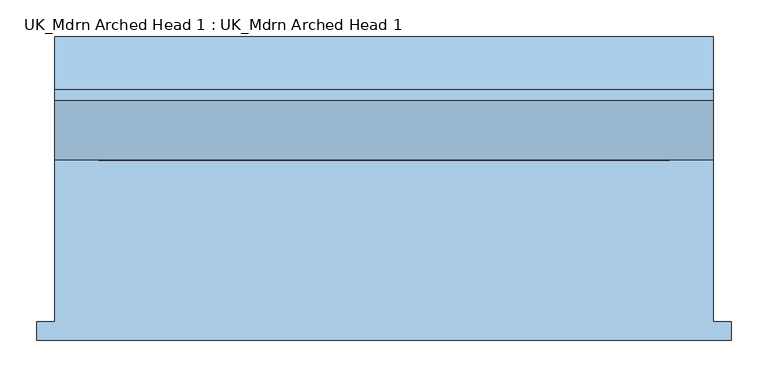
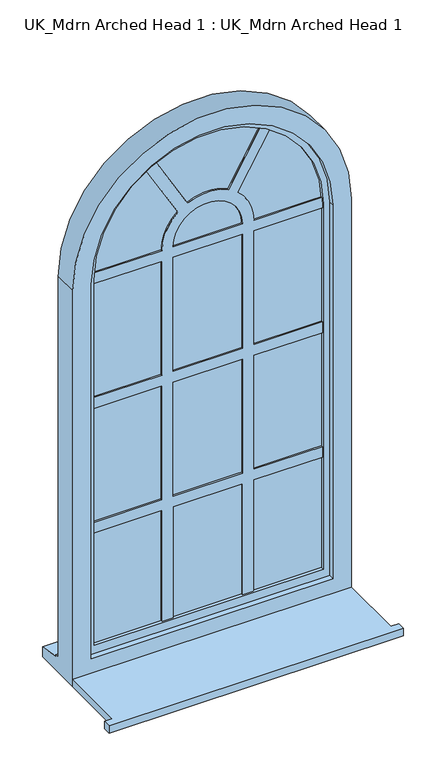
"""IFC4 building model written with IfcOpenShell, lengths in millimetres: window geometry, UK_Mdrn Arched Head 1 : UK_Mdrn Arched Head 1."""

from ifc_helpers import new_model, si_unit, point, frame, frame_2d, origin, place, context, project, spatial, polyline, circle_curve, trimmed, segment, composite_curve, outline, extrude, source, transform, mapped, element, save
from ifc_brep_helpers import plane_surface, cylinder_surface, revolved_surface, advanced_brep


def uk_mdrn_arched_head_1_uk_mdrn_arched_head_1_e3e941a3(model_context):
    return source(origin(), model_context, "Body", "SolidModel", [
        extrude(outline(polyline([(-760.0, -192.7559322), (-760.0, -167.7559322), (-735.0, -167.7559322), (-735.0, 53.6690678), (165.0, 53.6690678), (165.0, -167.7559322), (190.0, -167.7559322), (190.0, -192.7559322), (-760.0, -192.7559322)])), frame((0.0, 0.0, 760.0), z_axis=(0.0, 0.0, 1.0), x_axis=(1.0, 0.0, 0.0)), (0.0, 0.0, 1.0), 25.0),
        extrude(outline(composite_curve([segment(trimmed(circle_curve(frame_2d((2110.0, -285.0)), 380.0), [point((2429.7202458, -490.3751797))], [point((2128.0, -664.5734448))], False, "CARTESIAN"), True, "CONTINUOUS"), segment(polyline([(2128.0, -664.5734448), (2128.0, -433.3041784)]), True, "CONTINUOUS"), segment(trimmed(circle_curve(frame_2d((2128.0, -285.0)), 148.3041784), [point((2128.0, -433.3041784))], [point((2240.7887445, -381.2955266))], True, "CARTESIAN"), True, "CONTINUOUS"), segment(polyline([(2240.7887445, -381.2955266), (2429.7202458, -490.3751797)]), True, "CONTINUOUS")], self_intersect=False)), frame((0.0, 82.1690678, 0.0), z_axis=(0.0, 1.0, 0.0), x_axis=(0.0, 0.0, 1.0)), (0.0, 0.0, 1.0), 24.0),
        extrude(outline(composite_curve([segment(trimmed(circle_curve(frame_2d((2128.0, -285.0)), 148.3041784), [point((2240.7887445, -188.7044734))], [point((2128.0, -136.6958216))], True, "CARTESIAN"), True, "CONTINUOUS"), segment(polyline([(2128.0, -136.6958216), (2128.0, 94.5734448)]), True, "CONTINUOUS"), segment(trimmed(circle_curve(frame_2d((2110.0, -285.0)), 380.0), [point((2128.0, 94.5734448))], [point((2429.7202458, -79.6248203))], False, "CARTESIAN"), True, "CONTINUOUS"), segment(polyline([(2429.7202458, -79.6248203), (2240.7887445, -188.7044734)]), True, "CONTINUOUS")], self_intersect=False)), frame((0.0, 82.1690678, 0.0), z_axis=(0.0, 1.0, 0.0), x_axis=(0.0, 0.0, 1.0)), (0.0, 0.0, 1.0), 24.0),
        extrude(outline(composite_curve([segment(polyline([(2260.6984672, -218.7788091), (2447.7202458, -110.8017349)]), True, "CONTINUOUS"), segment(trimmed(circle_curve(frame_2d((2110.0, -285.0)), 380.0), [point((2447.7202458, -110.8017349))], [point((2447.7202458, -459.1982651))], False, "CARTESIAN"), True, "CONTINUOUS"), segment(polyline([(2447.7202458, -459.1982651), (2260.6984672, -351.2211909)]), True, "CONTINUOUS"), segment(trimmed(circle_curve(frame_2d((2128.0, -285.0)), 148.3041784), [point((2260.6984672, -351.2211909))], [point((2260.6984672, -218.7788091))], True, "CARTESIAN"), True, "CONTINUOUS")], self_intersect=False)), frame((0.0, 82.1690678, 0.0), z_axis=(0.0, 1.0, 0.0), x_axis=(0.0, 0.0, 1.0)), (0.0, 0.0, 1.0), 24.0),
        extrude(outline(composite_curve([segment(trimmed(circle_curve(frame_2d((2110.0, -285.0)), 380.0), [point((2429.7202458, -79.6248203))], [point((2447.7202458, -110.8017349))], False, "CARTESIAN"), True, "CONTINUOUS"), segment(polyline([(2447.7202458, -110.8017349), (2260.6984672, -218.7788091)]), True, "CONTINUOUS"), segment(trimmed(circle_curve(frame_2d((2128.0, -285.0)), 148.3041784), [point((2260.6984672, -218.7788091))], [point((2260.6984672, -351.2211909))], False, "CARTESIAN"), True, "CONTINUOUS"), segment(polyline([(2260.6984672, -351.2211909), (2447.7202458, -459.1982651)]), True, "CONTINUOUS"), segment(trimmed(circle_curve(frame_2d((2110.0, -285.0)), 380.0), [point((2447.7202458, -459.1982651))], [point((2429.7202458, -490.3751797))], False, "CARTESIAN"), True, "CONTINUOUS"), segment(polyline([(2429.7202458, -490.3751797), (2240.7887445, -381.2955266)]), True, "CONTINUOUS"), segment(trimmed(circle_curve(frame_2d((2128.0, -285.0)), 148.3041784), [point((2240.7887445, -381.2955266))], [point((2128.0, -433.3041784))], False, "CARTESIAN"), True, "CONTINUOUS"), segment(polyline([(2128.0, -433.3041784), (2128.0, -664.5734448)]), True, "CONTINUOUS"), segment(trimmed(circle_curve(frame_2d((2110.0, -285.0)), 380.0), [point((2128.0, -664.5734448))], [point((2110.0, -665.0))], False, "CARTESIAN"), True, "CONTINUOUS"), segment(polyline([(2110.0, -665.0), (2092.0, -665.0), (2092.0, -433.0), (1703.0, -433.0), (1703.0, -665.0), (1667.0, -665.0), (1667.0, -433.0), (1278.0, -433.0), (1278.0, -665.0), (1242.0, -665.0), (1242.0, -433.0), (853.0, -433.0), (853.0, -397.0), (1242.0, -397.0), (1242.0, -173.0), (853.0, -173.0), (853.0, -137.0), (1242.0, -137.0), (1242.0, 95.0), (1278.0, 95.0), (1278.0, -137.0), (1667.0, -137.0), (1667.0, 95.0), (1703.0, 95.0), (1703.0, -137.0), (2092.0, -137.0), (2092.0, 94.9854695), (2110.0, 94.9854695)]), True, "CONTINUOUS"), segment(trimmed(circle_curve(frame_2d((2110.0, -285.0)), 379.9854695), [point((2110.0, 94.9854695))], [point((2128.0, 94.558898))], False, "CARTESIAN"), True, "CONTINUOUS"), segment(polyline([(2128.0, 94.558898), (2128.0, -136.6958216)]), True, "CONTINUOUS"), segment(trimmed(circle_curve(frame_2d((2128.0, -285.0)), 148.3041784), [point((2128.0, -136.6958216))], [point((2240.7887445, -188.7044734))], False, "CARTESIAN"), True, "CONTINUOUS"), segment(polyline([(2240.7887445, -188.7044734), (2429.7202458, -79.6248203)]), True, "CONTINUOUS")], self_intersect=False), holes=[composite_curve([segment(polyline([(2128.0, -173.3041784), (2128.0, -396.6958216)]), True, "CONTINUOUS"), segment(trimmed(circle_curve(frame_2d((2128.0, -285.0)), 111.6958216), [point((2128.0, -396.6958216))], [point((2128.0, -173.3041784))], True, "CARTESIAN"), True, "CONTINUOUS")], self_intersect=False), polyline([(1278.0, -397.0), (1667.0, -397.0), (1667.0, -173.0), (1278.0, -173.0), (1278.0, -397.0)]), polyline([(1703.0, -397.0), (2092.0, -397.0), (2092.0, -173.0), (1703.0, -173.0), (1703.0, -397.0)])]), frame((0.0, 76.9190678, 0.0), z_axis=(0.0, 1.0, 0.0), x_axis=(0.0, 0.0, 1.0)), (0.0, 0.0, 1.0), 34.5),
        extrude(outline(polyline([(95.0, 82.1690678), (-137.0, 82.1690678), (-137.0, 106.1690678), (95.0, 106.1690678), (95.0, 82.1690678)])), frame((0.0, 0.0, 853.0), z_axis=(0.0, 0.0, 1.0), x_axis=(1.0, 0.0, 0.0)), (0.0, 0.0, 1.0), 389.0),
        extrude(outline(polyline([(-173.0, 82.1690678), (-397.0, 82.1690678), (-397.0, 106.1690678), (-173.0, 106.1690678), (-173.0, 82.1690678)])), frame((0.0, 0.0, 853.0), z_axis=(0.0, 0.0, 1.0), x_axis=(1.0, 0.0, 0.0)), (0.0, 0.0, 1.0), 389.0),
        extrude(outline(polyline([(-433.0, 82.1690678), (-665.0, 82.1690678), (-665.0, 106.1690678), (-433.0, 106.1690678), (-433.0, 82.1690678)])), frame((0.0, 0.0, 853.0), z_axis=(0.0, 0.0, 1.0), x_axis=(1.0, 0.0, 0.0)), (0.0, 0.0, 1.0), 389.0),
        extrude(outline(polyline([(95.0, 82.1690678), (-137.0, 82.1690678), (-137.0, 106.1690678), (95.0, 106.1690678), (95.0, 82.1690678)])), frame((0.0, 0.0, 1278.0), z_axis=(0.0, 0.0, 1.0), x_axis=(1.0, 0.0, 0.0)), (0.0, 0.0, 1.0), 389.0),
        extrude(outline(polyline([(-173.0, 82.1690678), (-397.0, 82.1690678), (-397.0, 106.1690678), (-173.0, 106.1690678), (-173.0, 82.1690678)])), frame((0.0, 0.0, 1278.0), z_axis=(0.0, 0.0, 1.0), x_axis=(1.0, 0.0, 0.0)), (0.0, 0.0, 1.0), 389.0),
        extrude(outline(polyline([(-433.0, 82.1690678), (-665.0, 82.1690678), (-665.0, 106.1690678), (-433.0, 106.1690678), (-433.0, 82.1690678)])), frame((0.0, 0.0, 1278.0), z_axis=(0.0, 0.0, 1.0), x_axis=(1.0, 0.0, 0.0)), (0.0, 0.0, 1.0), 389.0),
        extrude(outline(polyline([(95.0, 82.1690678), (-137.0, 82.1690678), (-137.0, 106.1690678), (95.0, 106.1690678), (95.0, 82.1690678)])), frame((0.0, 0.0, 1703.0), z_axis=(0.0, 0.0, 1.0), x_axis=(1.0, 0.0, 0.0)), (0.0, 0.0, 1.0), 389.0),
        extrude(outline(polyline([(-173.0, 82.1690678), (-397.0, 82.1690678), (-397.0, 106.1690678), (-173.0, 106.1690678), (-173.0, 82.1690678)])), frame((0.0, 0.0, 1703.0), z_axis=(0.0, 0.0, 1.0), x_axis=(1.0, 0.0, 0.0)), (0.0, 0.0, 1.0), 389.0),
        extrude(outline(polyline([(-433.0, 82.1690678), (-665.0, 82.1690678), (-665.0, 106.1690678), (-433.0, 106.1690678), (-433.0, 82.1690678)])), frame((0.0, 0.0, 1703.0), z_axis=(0.0, 0.0, 1.0), x_axis=(1.0, 0.0, 0.0)), (0.0, 0.0, 1.0), 389.0),
        extrude(outline(composite_curve([segment(trimmed(circle_curve(frame_2d((2128.0, -285.0)), 111.6958216), [point((2128.0, -173.3041784))], [point((2128.0, -396.6958216))], False, "CARTESIAN"), True, "CONTINUOUS"), segment(polyline([(2128.0, -396.6958216), (2128.0, -173.3041784)]), True, "CONTINUOUS")], self_intersect=False)), frame((0.0, 82.1690678, 0.0), z_axis=(0.0, 1.0, 0.0), x_axis=(0.0, 0.0, 1.0)), (0.0, 0.0, 1.0), 24.0),
        advanced_brep(
        [(125.0, 116.6690678, 2110.0), (125.0, 71.6690678, 2110.0), (125.0, 71.6690678, 823.0), (125.0, 116.6690678, 823.0), (85.0, 106.1690678, 2110.0), (85.0, 116.6690678, 2110.0), (85.0, 116.6690678, 863.0), (85.0, 106.1690678, 863.0), (95.0, 82.1690678, 2110.0), (95.0, 106.1690678, 2110.0), (95.0, 106.1690678, 853.0), (95.0, 82.1690678, 853.0), (85.0, 71.6690678, 2110.0), (85.0, 82.1690678, 2110.0), (85.0, 82.1690678, 863.0), (85.0, 71.6690678, 863.0), (-695.0, 71.6690678, 823.0), (-695.0, 116.6690678, 823.0), (-655.0, 116.6690678, 863.0), (-655.0, 106.1690678, 863.0), (-665.0, 106.1690678, 853.0), (-665.0, 82.1690678, 853.0), (-655.0, 82.1690678, 863.0), (-655.0, 71.6690678, 863.0), (-695.0, 71.6690678, 2110.0), (-695.0, 116.6690678, 2110.0), (-655.0, 116.6690678, 2110.0), (-655.0, 106.1690678, 2110.0), (-665.0, 106.1690678, 2110.0), (-665.0, 82.1690678, 2110.0), (-655.0, 82.1690678, 2110.0), (-655.0, 71.6690678, 2110.0)],
        [
            (0, 1),
            (1, 2),
            (2, 3),
            (3, 0),
            (4, 5),
            (5, 6),
            (6, 7),
            (7, 4),
            (8, 9),
            (9, 10),
            (10, 11),
            (11, 8),
            (12, 13),
            (13, 14),
            (14, 15),
            (15, 12),
            (2, 16),
            (16, 17),
            (17, 3),
            (6, 18),
            (18, 19),
            (19, 7),
            (10, 20),
            (20, 21),
            (21, 11),
            (14, 22),
            (22, 23),
            (23, 15),
            (16, 24),
            (24, 25),
            (25, 17),
            (18, 26),
            (26, 27),
            (27, 19),
            (20, 28),
            (28, 29),
            (29, 21),
            (22, 30),
            (30, 31),
            (31, 23),
            (0, 25, circle_curve(frame((-285.0, 116.6690678, 2110.0), z_axis=(0.0, -1.0, 0.0), x_axis=(-1.0, 0.0, 0.0)), 410.0)),
            (24, 1, circle_curve(frame((-285.0, 71.6690678, 2110.0), z_axis=(0.0, 1.0, 0.0), x_axis=(-1.0, 0.0, 0.0)), 410.0)),
            (5, 26, circle_curve(frame((-285.0, 116.6690678, 2110.0), z_axis=(0.0, -1.0, 0.0), x_axis=(-1.0, 0.0, 0.0)), 370.0)),
            (4, 27, circle_curve(frame((-285.0, 106.1690678, 2110.0), z_axis=(0.0, -1.0, 0.0), x_axis=(-1.0, 0.0, 0.0)), 370.0)),
            (9, 28, circle_curve(frame((-285.0, 106.1690678, 2110.0), z_axis=(0.0, -1.0, 0.0), x_axis=(-1.0, 0.0, 0.0)), 380.0)),
            (8, 29, circle_curve(frame((-285.0, 82.1690678, 2110.0), z_axis=(0.0, -1.0, 0.0), x_axis=(-1.0, 0.0, 0.0)), 380.0)),
            (13, 30, circle_curve(frame((-285.0, 82.1690678, 2110.0), z_axis=(0.0, -1.0, 0.0), x_axis=(-1.0, 0.0, 0.0)), 370.0)),
            (12, 31, circle_curve(frame((-285.0, 71.6690678, 2110.0), z_axis=(0.0, -1.0, 0.0), x_axis=(-1.0, 0.0, 0.0)), 370.0)),
        ],
        [
            plane_surface(frame((125.0, 71.6690678, 2110.0), z_axis=(1.0, 0.0, 0.0), x_axis=(0.0, 0.0, -1.0))),
            plane_surface(frame((85.0, 116.6690678, 2110.0), z_axis=(-1.0, 0.0, 0.0), x_axis=(0.0, 0.0, -1.0))),
            plane_surface(frame((95.0, 106.1690678, 2110.0), z_axis=(-1.0, 0.0, 0.0), x_axis=(0.0, 0.0, -1.0))),
            plane_surface(frame((85.0, 82.1690678, 2110.0), z_axis=(-1.0, 0.0, 0.0), x_axis=(0.0, 0.0, -1.0))),
            plane_surface(frame((125.0, 71.6690678, 823.0), z_axis=(0.0, 0.0, -1.0), x_axis=(-1.0, 0.0, 0.0))),
            plane_surface(frame((85.0, 116.6690678, 863.0), z_axis=(0.0, 0.0, 1.0), x_axis=(-1.0, 0.0, 0.0))),
            plane_surface(frame((95.0, 106.1690678, 853.0), z_axis=(0.0, 0.0, 1.0), x_axis=(-1.0, 0.0, 0.0))),
            plane_surface(frame((85.0, 82.1690678, 863.0), z_axis=(0.0, 0.0, 1.0), x_axis=(-1.0, 0.0, 0.0))),
            plane_surface(frame((-695.0, 71.6690678, 823.0), z_axis=(-1.0, 0.0, 0.0), x_axis=(0.0, 0.0, 1.0))),
            plane_surface(frame((-655.0, 116.6690678, 863.0), z_axis=(1.0, 0.0, 0.0), x_axis=(0.0, 0.0, 1.0))),
            plane_surface(frame((-665.0, 106.1690678, 853.0), z_axis=(1.0, 0.0, 0.0), x_axis=(0.0, 0.0, 1.0))),
            plane_surface(frame((-655.0, 82.1690678, 863.0), z_axis=(1.0, 0.0, 0.0), x_axis=(0.0, 0.0, 1.0))),
            cylinder_surface(frame((-285.0, 116.6690678, 2110.0), z_axis=(0.0, 1.0, 0.0), x_axis=(-1.0, 0.0, 0.0)), 410.0),
            plane_surface(frame((-285.0, 116.6690678, 2110.0), z_axis=(0.0, 1.0, 0.0), x_axis=(-1.0, 0.0, 0.0))),
            revolved_surface(polyline([(-655.0, 116.6690678, 2110.0), (-655.0, 106.1690678, 2110.0)]), (-285.0, 116.6690678, 2110.0), (0.0, 1.0, 0.0)),
            plane_surface(frame((-285.0, 106.1690678, 2110.0), z_axis=(0.0, -1.0, 0.0), x_axis=(-1.0, 0.0, 0.0))),
            revolved_surface(polyline([(-665.0, 106.1690678, 2110.0), (-665.0, 82.1690678, 2110.0)]), (-285.0, 116.6690678, 2110.0), (0.0, 1.0, 0.0)),
            plane_surface(frame((-285.0, 82.1690678, 2110.0), z_axis=(0.0, 1.0, 0.0), x_axis=(-1.0, 0.0, 0.0))),
            revolved_surface(polyline([(-655.0, 82.1690678, 2110.0), (-655.0, 71.6690678, 2110.0)]), (-285.0, 116.6690678, 2110.0), (0.0, 1.0, 0.0)),
            plane_surface(frame((-285.0, 71.6690678, 2110.0), z_axis=(0.0, -1.0, 0.0), x_axis=(-1.0, 0.0, 0.0))),
        ],
        [
            (0, [[1, 2, 3, 4]]),
            (1, [[5, 6, 7, 8]]),
            (2, [[9, 10, 11, 12]]),
            (3, [[13, 14, 15, 16]]),
            (4, [[-3, 17, 18, 19]]),
            (5, [[-7, 20, 21, 22]]),
            (6, [[-11, 23, 24, 25]]),
            (7, [[-15, 26, 27, 28]]),
            (8, [[-18, 29, 30, 31]]),
            (9, [[-21, 32, 33, 34]]),
            (10, [[-24, 35, 36, 37]]),
            (11, [[-27, 38, 39, 40]]),
            (12, [[41, -30, 42, -1]]),
            (13, [[-19, -31, -41, -4], [43, -32, -20, -6]]),
            (14, [[44, -33, -43, -5]]),
            (15, [[45, -35, -23, -10], [-22, -34, -44, -8]]),
            (16, [[46, -36, -45, -9]]),
            (17, [[-25, -37, -46, -12], [47, -38, -26, -14]]),
            (18, [[48, -39, -47, -13]]),
            (19, [[-42, -29, -17, -2], [-28, -40, -48, -16]]),
        ],
    ),
        advanced_brep(
        [(-735.0, 53.6690678, 760.0), (165.0, 53.6690678, 760.0), (165.0, 53.6690678, 2110.0), (-735.0, 53.6690678, 2110.0), (-675.0, 53.6690678, 2110.0), (105.0, 53.6690678, 2110.0), (105.0, 53.6690678, 835.0), (-675.0, 53.6690678, 835.0), (-735.0, 134.6690678, 2110.0), (-735.0, 134.6690678, 811.0), (-735.0, 149.6690678, 810.2709278), (-735.0, 149.6690678, 806.5550779), (-735.0, 222.1690678, 793.8088847), (-735.0, 222.1690678, 760.0), (165.0, 134.6690678, 2110.0), (165.0, 134.6690678, 811.0), (-695.0, 134.6690678, 2110.0), (-695.0, 134.6690678, 823.0), (125.0, 134.6690678, 823.0), (125.0, 134.6690678, 2110.0), (-695.0, 71.6690678, 2110.0), (-695.0, 71.6690678, 823.0), (125.0, 71.6690678, 2110.0), (125.0, 71.6690678, 823.0), (-675.0, 71.6690678, 2110.0), (-675.0, 71.6690678, 835.0), (105.0, 71.6690678, 835.0), (105.0, 71.6690678, 2110.0), (165.0, 222.1690678, 760.0), (165.0, 222.1690678, 793.8088847), (165.0, 149.6690678, 806.5550779), (165.0, 149.6690678, 810.2709278)],
        [
            (0, 1),
            (1, 2),
            (2, 3, circle_curve(frame((-285.0, 53.6690678, 2110.0), z_axis=(0.0, -1.0, 0.0), x_axis=(-1.0, 0.0, 0.0)), 450.0)),
            (3, 0),
            (4, 5, circle_curve(frame((-285.0, 53.6690678, 2110.0), z_axis=(0.0, 1.0, 0.0), x_axis=(-1.0, 0.0, 0.0)), 390.0)),
            (5, 6),
            (6, 7),
            (7, 4),
            (3, 8),
            (8, 9),
            (9, 10),
            (10, 11),
            (11, 12),
            (12, 13),
            (13, 0),
            (8, 14, circle_curve(frame((-285.0, 134.6690678, 2110.0), z_axis=(0.0, 1.0, 0.0), x_axis=(-1.0, 0.0, 0.0)), 450.0)),
            (14, 15),
            (15, 9),
            (16, 17),
            (17, 18),
            (18, 19),
            (19, 16, circle_curve(frame((-285.0, 134.6690678, 2110.0), z_axis=(0.0, -1.0, 0.0), x_axis=(-1.0, 0.0, 0.0)), 410.0)),
            (16, 20),
            (20, 21),
            (21, 17),
            (20, 22, circle_curve(frame((-285.0, 71.6690678, 2110.0), z_axis=(0.0, 1.0, 0.0), x_axis=(-1.0, 0.0, 0.0)), 410.0)),
            (22, 23),
            (23, 21),
            (24, 25),
            (25, 26),
            (26, 27),
            (27, 24, circle_curve(frame((-285.0, 71.6690678, 2110.0), z_axis=(0.0, -1.0, 0.0), x_axis=(-1.0, 0.0, 0.0)), 390.0)),
            (24, 4),
            (7, 25),
            (2, 14),
            (19, 22),
            (27, 5),
            (1, 28),
            (28, 29),
            (29, 30),
            (30, 31),
            (31, 15),
            (18, 23),
            (26, 6),
            (13, 28),
            (12, 29),
            (11, 30),
            (10, 31),
        ],
        [
            plane_surface(frame((-675.0, 53.6690678, 823.0), z_axis=(0.0, -1.0, 0.0), x_axis=(0.0, 0.0, 1.0))),
            plane_surface(frame((-735.0, 53.6690678, 823.0), z_axis=(-1.0, 0.0, 0.0), x_axis=(0.0, 0.0, 1.0))),
            plane_surface(frame((-735.0, 134.6690678, 823.0), z_axis=(0.0, 1.0, 0.0), x_axis=(0.0, 0.0, 1.0))),
            plane_surface(frame((-695.0, 134.6690678, 823.0), z_axis=(1.0, 0.0, 0.0), x_axis=(0.0, 0.0, 1.0))),
            plane_surface(frame((-695.0, 71.6690678, 823.0), z_axis=(0.0, 1.0, 0.0), x_axis=(0.0, 0.0, 1.0))),
            plane_surface(frame((-675.0, 71.6690678, 823.0), z_axis=(1.0, 0.0, 0.0), x_axis=(0.0, 0.0, 1.0))),
            cylinder_surface(frame((-285.0, 71.6690678, 2110.0), z_axis=(0.0, 1.0, 0.0), x_axis=(-1.0, 0.0, 0.0)), 450.0),
            revolved_surface(polyline([(-695.0, 134.6690678, 2110.0), (-695.0, 71.6690678, 2110.0)]), (-285.0, 71.6690678, 2110.0), (0.0, 1.0, 0.0)),
            revolved_surface(polyline([(-675.0, 71.6690678, 2110.0), (-675.0, 53.6690678, 2110.0)]), (-285.0, 71.6690678, 2110.0), (0.0, 1.0, 0.0)),
            plane_surface(frame((165.0, 53.6690678, 2110.0), z_axis=(1.0, 0.0, 0.0), x_axis=(0.0, 0.0, -1.0))),
            plane_surface(frame((125.0, 134.6690678, 2110.0), z_axis=(-1.0, 0.0, 0.0), x_axis=(0.0, 0.0, -1.0))),
            plane_surface(frame((105.0, 71.6690678, 2110.0), z_axis=(-1.0, 0.0, 0.0), x_axis=(0.0, 0.0, -1.0))),
            plane_surface(frame((165.0, 53.6690678, 760.0), z_axis=(0.0, 0.0, -1.0), x_axis=(-1.0, 0.0, 0.0))),
            plane_surface(frame((165.0, 222.1690678, 760.0), z_axis=(0.0, 1.0, 0.0), x_axis=(-1.0, 0.0, 0.0))),
            plane_surface(frame((165.0, 222.1690678, 793.8088847), z_axis=(0.0, 0.17315391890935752, 0.9848947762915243), x_axis=(-1.0, 0.0, 0.0))),
            plane_surface(frame((165.0, 149.6690678, 806.5550779), z_axis=(0.0, 1.0, 0.0), x_axis=(-1.0, 0.0, 0.0))),
            plane_surface(frame((165.0, 149.6690678, 810.2709278), z_axis=(0.0, 0.04854750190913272, 0.9988208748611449), x_axis=(-1.0, 0.0, 0.0))),
            plane_surface(frame((165.0, 134.6690678, 823.0), z_axis=(0.0, 0.0, 1.0), x_axis=(-1.0, 0.0, 0.0))),
            plane_surface(frame((165.0, 71.6690678, 835.0), z_axis=(0.0, 0.0, 1.0), x_axis=(-1.0, 0.0, 0.0))),
        ],
        [
            (0, [[1, 2, 3, 4], [5, 6, 7, 8]]),
            (1, [[-4, 9, 10, 11, 12, 13, 14, 15]]),
            (2, [[-10, 16, 17, 18], [19, 20, 21, 22]]),
            (3, [[-19, 23, 24, 25]]),
            (4, [[26, 27, 28, -24], [29, 30, 31, 32]]),
            (5, [[33, -8, 34, -29]]),
            (6, [[-3, 35, -16, -9]]),
            (7, [[-22, 36, -26, -23]]),
            (8, [[-5, -33, -32, 37]]),
            (9, [[-17, -35, -2, 38, 39, 40, 41, 42]]),
            (10, [[-21, 43, -27, -36]]),
            (11, [[-37, -31, 44, -6]]),
            (12, [[-38, -1, -15, 45]]),
            (13, [[-39, -45, -14, 46]]),
            (14, [[-40, -46, -13, 47]]),
            (15, [[-41, -47, -12, 48]]),
            (16, [[-42, -48, -11, -18]]),
            (17, [[-28, -43, -20, -25]]),
            (18, [[-7, -44, -30, -34]]),
        ],
    ),
    ])


if __name__ == "__main__":
    model = new_model("IFC4")
    model_context = context("Model", 3, world=origin())
    ifc_project = project(units=[si_unit("LENGTHUNIT", "METRE", prefix="MILLI")], contexts=[model_context])
    site = spatial("IfcSite", under=ifc_project)
    building = spatial("IfcBuilding", under=site)
    placement = place(None, origin())
    uk_mdrn_arched_head_1_uk_mdrn_arched_head_1_shape = uk_mdrn_arched_head_1_uk_mdrn_arched_head_1_e3e941a3(model_context)
    element("IfcWindow", 1, ObjectType="UK_Mdrn Arched Head 1 : UK_Mdrn Arched Head 1", at=placement, inside=building, context=model_context, shape_type="MappedRepresentation", body=[
        mapped(uk_mdrn_arched_head_1_uk_mdrn_arched_head_1_shape, transform((0.0, 0.0, 0.0), x_axis=(1.0, 0.0, 0.0), y_axis=(0.0, 1.0, 0.0), z_axis=(0.0, 0.0, 1.0))),
    ])
    save(model, "model.ifc")
